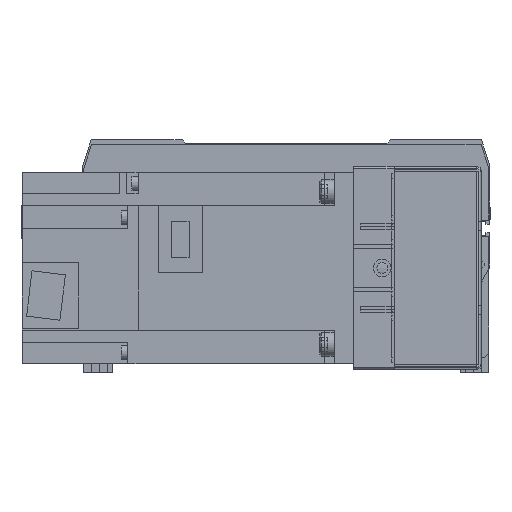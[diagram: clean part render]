
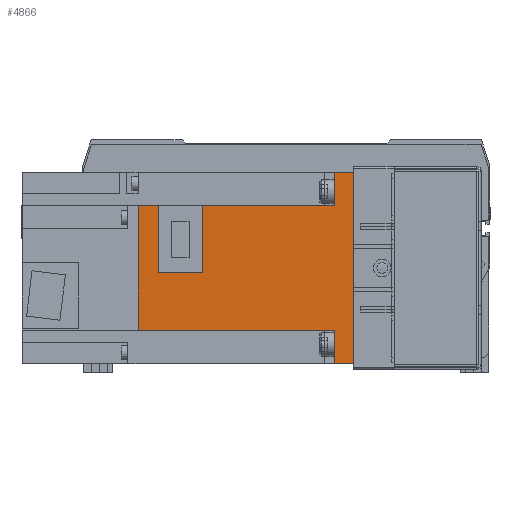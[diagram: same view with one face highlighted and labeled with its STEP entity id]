
A CAD part, front view. The second image highlights one B-rep face of the part: STEP entity #4866.
In plain terms, the highlighted planar face has unit normal (0, -1, 0) as drawn and (1, 0, 0) by its records, which use the part's own axes.
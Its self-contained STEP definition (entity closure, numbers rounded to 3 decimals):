
#297 = CARTESIAN_POINT ( 'NONE',  ( 40., 89.8, 25.95 ) ) ;
#577 = VERTEX_POINT ( 'NONE', #35239 ) ;
#1009 = VECTOR ( 'NONE', #24742, 1000. ) ;
#1246 = CARTESIAN_POINT ( 'NONE',  ( 40., 81.4, 1.8 ) ) ;
#1409 = VERTEX_POINT ( 'NONE', #40762 ) ;
#1782 = LINE ( 'NONE', #13984, #3443 ) ;
#2944 = VECTOR ( 'NONE', #43002, 1000. ) ;
#3359 = VERTEX_POINT ( 'NONE', #10503 ) ;
#3443 = VECTOR ( 'NONE', #34148, 1000. ) ;
#3896 = CARTESIAN_POINT ( 'NONE',  ( 40., 89.8, -25.95 ) ) ;
#3940 = AXIS2_PLACEMENT_3D ( 'NONE', #9228, #19223, #40227 ) ;
#4866 = ADVANCED_FACE ( 'NONE', ( #21873 ), #16386, .F. ) ;
#5675 = DIRECTION ( 'NONE',  ( 0., 0., -1. ) ) ;
#5837 = CARTESIAN_POINT ( 'NONE',  ( 40., 8., 40. ) ) ;
#6313 = LINE ( 'NONE', #24174, #39952 ) ;
#6344 = ORIENTED_EDGE ( 'NONE', *, *, #35159, .F. ) ;
#6385 = ORIENTED_EDGE ( 'NONE', *, *, #29914, .F. ) ;
#6603 = VECTOR ( 'NONE', #42766, 1000. ) ;
#7529 = VERTEX_POINT ( 'NONE', #13738 ) ;
#7771 = LINE ( 'NONE', #12673, #31797 ) ;
#8183 = CARTESIAN_POINT ( 'NONE',  ( 40., 8., 40. ) ) ;
#8187 = CARTESIAN_POINT ( 'NONE',  ( 40., 89.8, 1.8 ) ) ;
#8573 = VERTEX_POINT ( 'NONE', #18220 ) ;
#8815 = CARTESIAN_POINT ( 'NONE',  ( 40., 62.8, 40. ) ) ;
#9187 = VERTEX_POINT ( 'NONE', #25025 ) ;
#9228 = CARTESIAN_POINT ( 'NONE',  ( 40., 89.8, 40. ) ) ;
#9980 = ORIENTED_EDGE ( 'NONE', *, *, #19347, .F. ) ;
#10452 = DIRECTION ( 'NONE',  ( 0., 0., -1. ) ) ;
#10503 = CARTESIAN_POINT ( 'NONE',  ( 40., 89.8, -25.95 ) ) ;
#10623 = VECTOR ( 'NONE', #42061, 1000. ) ;
#11114 = LINE ( 'NONE', #35340, #32489 ) ;
#11913 = EDGE_CURVE ( 'NONE', #3359, #7529, #17490, .T. ) ;
#12657 = DIRECTION ( 'NONE',  ( 0., 1., 0. ) ) ;
#12673 = CARTESIAN_POINT ( 'NONE',  ( 40., 89.8, 25.95 ) ) ;
#12798 = CARTESIAN_POINT ( 'NONE',  ( 40., 89.8, -40. ) ) ;
#13180 = EDGE_CURVE ( 'NONE', #18797, #29379, #42657, .T. ) ;
#13738 = CARTESIAN_POINT ( 'NONE',  ( 40., 81.4, -25.95 ) ) ;
#13984 = CARTESIAN_POINT ( 'NONE',  ( 40., 89.8, 40. ) ) ;
#14468 = DIRECTION ( 'NONE',  ( 0., 0., -1. ) ) ;
#16015 = VERTEX_POINT ( 'NONE', #297 ) ;
#16386 = PLANE ( 'NONE',  #3940 ) ;
#16891 = CARTESIAN_POINT ( 'NONE',  ( 40., 62.8, 1.8 ) ) ;
#17490 = LINE ( 'NONE', #3896, #19610 ) ;
#17578 = EDGE_LOOP ( 'NONE', ( #36023, #9980, #39767, #37760, #34703, #35241, #33966, #18772, #6344, #18378, #32092, #6385 ) ) ;
#18220 = CARTESIAN_POINT ( 'NONE',  ( 40., 0., 40. ) ) ;
#18378 = ORIENTED_EDGE ( 'NONE', *, *, #31917, .F. ) ;
#18772 = ORIENTED_EDGE ( 'NONE', *, *, #29005, .F. ) ;
#18797 = VERTEX_POINT ( 'NONE', #1246 ) ;
#19223 = DIRECTION ( 'NONE',  ( -1., 0., 0. ) ) ;
#19347 = EDGE_CURVE ( 'NONE', #16015, #3359, #30108, .T. ) ;
#19610 = VECTOR ( 'NONE', #27754, 1000. ) ;
#19873 = DIRECTION ( 'NONE',  ( 0., 1., 0. ) ) ;
#20874 = VERTEX_POINT ( 'NONE', #8183 ) ;
#21873 = FACE_OUTER_BOUND ( 'NONE', #17578, .T. ) ;
#24174 = CARTESIAN_POINT ( 'NONE',  ( 40., 8., 40. ) ) ;
#24233 = CARTESIAN_POINT ( 'NONE',  ( 40., 8., -40. ) ) ;
#24742 = DIRECTION ( 'NONE',  ( 0., -1., 0. ) ) ;
#25025 = CARTESIAN_POINT ( 'NONE',  ( 40., 62.8, -25.95 ) ) ;
#25825 = LINE ( 'NONE', #34440, #43437 ) ;
#27142 = VERTEX_POINT ( 'NONE', #24233 ) ;
#27754 = DIRECTION ( 'NONE',  ( 0., -1., 0. ) ) ;
#28312 = LINE ( 'NONE', #12798, #36279 ) ;
#29005 = EDGE_CURVE ( 'NONE', #32098, #27142, #37622, .T. ) ;
#29193 = EDGE_CURVE ( 'NONE', #1409, #16015, #7771, .T. ) ;
#29379 = VERTEX_POINT ( 'NONE', #16891 ) ;
#29914 = EDGE_CURVE ( 'NONE', #7529, #18797, #25825, .T. ) ;
#29915 = EDGE_CURVE ( 'NONE', #8573, #20874, #1782, .T. ) ;
#30108 = LINE ( 'NONE', #32795, #6603 ) ;
#31459 = LINE ( 'NONE', #32084, #10623 ) ;
#31797 = VECTOR ( 'NONE', #19873, 1000. ) ;
#31917 = EDGE_CURVE ( 'NONE', #29379, #9187, #34193, .T. ) ;
#31983 = EDGE_CURVE ( 'NONE', #577, #27142, #28312, .T. ) ;
#32084 = CARTESIAN_POINT ( 'NONE',  ( 40., 89.8, -25.95 ) ) ;
#32092 = ORIENTED_EDGE ( 'NONE', *, *, #13180, .F. ) ;
#32098 = VERTEX_POINT ( 'NONE', #38721 ) ;
#32489 = VECTOR ( 'NONE', #14468, 1000. ) ;
#32596 = VECTOR ( 'NONE', #5675, 1000. ) ;
#32795 = CARTESIAN_POINT ( 'NONE',  ( 40., 89.8, 40. ) ) ;
#33966 = ORIENTED_EDGE ( 'NONE', *, *, #31983, .T. ) ;
#34148 = DIRECTION ( 'NONE',  ( 0., 1., 0. ) ) ;
#34193 = LINE ( 'NONE', #8815, #32596 ) ;
#34299 = DIRECTION ( 'NONE',  ( 0., 0., 1. ) ) ;
#34440 = CARTESIAN_POINT ( 'NONE',  ( 40., 81.4, 40. ) ) ;
#34703 = ORIENTED_EDGE ( 'NONE', *, *, #29915, .F. ) ;
#35159 = EDGE_CURVE ( 'NONE', #9187, #32098, #31459, .T. ) ;
#35239 = CARTESIAN_POINT ( 'NONE',  ( 40., 0., -40. ) ) ;
#35241 = ORIENTED_EDGE ( 'NONE', *, *, #44178, .T. ) ;
#35340 = CARTESIAN_POINT ( 'NONE',  ( 40., 0., 0. ) ) ;
#36023 = ORIENTED_EDGE ( 'NONE', *, *, #11913, .F. ) ;
#36279 = VECTOR ( 'NONE', #12657, 1000. ) ;
#37622 = LINE ( 'NONE', #5837, #2944 ) ;
#37760 = ORIENTED_EDGE ( 'NONE', *, *, #44090, .F. ) ;
#38721 = CARTESIAN_POINT ( 'NONE',  ( 40., 8., -25.95 ) ) ;
#39767 = ORIENTED_EDGE ( 'NONE', *, *, #29193, .F. ) ;
#39952 = VECTOR ( 'NONE', #10452, 1000. ) ;
#40227 = DIRECTION ( 'NONE',  ( 0., 0., 1. ) ) ;
#40762 = CARTESIAN_POINT ( 'NONE',  ( 40., 8., 25.95 ) ) ;
#42061 = DIRECTION ( 'NONE',  ( 0., -1., 0. ) ) ;
#42657 = LINE ( 'NONE', #8187, #1009 ) ;
#42766 = DIRECTION ( 'NONE',  ( 0., 0., -1. ) ) ;
#43002 = DIRECTION ( 'NONE',  ( 0., 0., -1. ) ) ;
#43437 = VECTOR ( 'NONE', #34299, 1000. ) ;
#44090 = EDGE_CURVE ( 'NONE', #20874, #1409, #6313, .T. ) ;
#44178 = EDGE_CURVE ( 'NONE', #8573, #577, #11114, .T. ) ;
